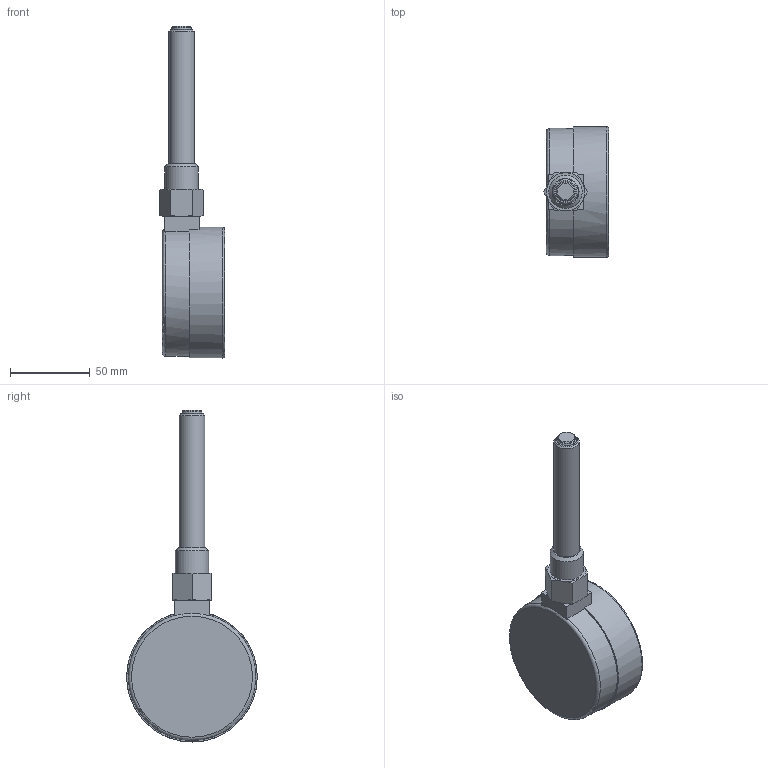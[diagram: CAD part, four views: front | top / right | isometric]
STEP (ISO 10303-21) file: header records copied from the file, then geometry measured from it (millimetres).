
FILE_DESCRIPTION(/* description */ ('ТМТБ-31Р-L100'),/* implementation_level */ '2;1');
FILE_NAME(/* name */ 'C:\STEP\ТМТБ-31Р\ТМТБ-31Р-L100.stp',/* time_stamp */ '2023-05-25T00:36:12+03:00',/* author */ ('Tech'),/* organization */ (''),/* preprocessor_version */ 'ST-DEVELOPER v18.1',/* originating_system */ 'Autodesk Inventor 2021',/* authorisation */ '');
FILE_SCHEMA (('AUTOMOTIVE_DESIGN { 1 0 10303 214 3 1 1 }'));
Length unit declared in the file: millimetre
Products named in the file (1): ТМТБ-31Р-L100
Bounding box: 40.86 x 82 x 208.5 mm (x, y, z)
Volume: 213397.9 mm3; surface area: 37954.7 mm2
Topology: 2 solids, 2 shells, 490 faces, 1205 edges, 805 vertices
Faces by surface type: plane 431, cylinder 21, bspline 18, cone 17, torus 3
Full cylindrical faces by diameter (mm): 0.581 x1, 0.766 x1, 8 x1, 10 x1, 11.5 x1, 14 x1, 16 x2, 17 x1, 18 x1, 20.955 x1, 73 x1, 82 x1
Entity records: 14376 total; most frequent: CARTESIAN_POINT 2797, ORIENTED_EDGE 2410, DIRECTION 2182, EDGE_CURVE 1205, LINE 1050, VECTOR 1050, VERTEX_POINT 805, EDGE_LOOP 576
